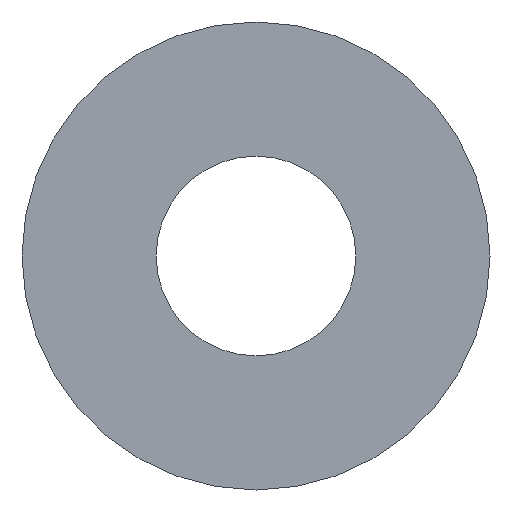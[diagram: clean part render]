
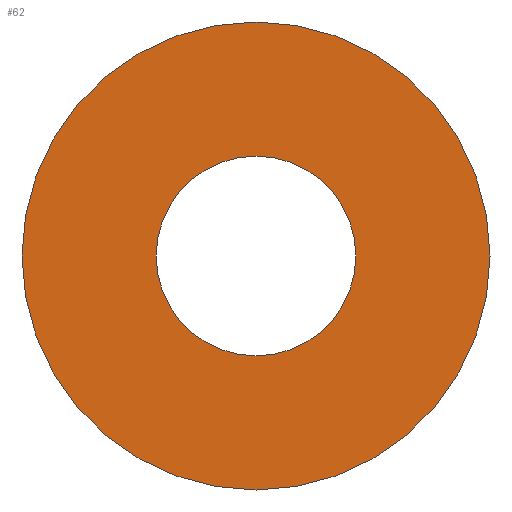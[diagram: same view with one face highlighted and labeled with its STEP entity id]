
A CAD part, front view. The second image highlights one B-rep face of the part: STEP entity #62.
In plain terms, the highlighted planar face has unit normal (0, -1, 0).
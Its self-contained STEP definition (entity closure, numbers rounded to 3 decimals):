
#20=PLANE('',#83);
#26=ORIENTED_EDGE('',*,*,#30,.T.);
#27=ORIENTED_EDGE('',*,*,#32,.F.);
#30=EDGE_CURVE('',#34,#34,#38,.T.);
#32=EDGE_CURVE('',#36,#36,#40,.T.);
#34=VERTEX_POINT('',#106);
#36=VERTEX_POINT('',#111);
#38=CIRCLE('',#78,17.5);
#40=CIRCLE('',#81,41.);
#46=EDGE_LOOP('',(#26));
#47=EDGE_LOOP('',(#27));
#54=FACE_BOUND('',#46,.T.);
#55=FACE_BOUND('',#47,.T.);
#62=ADVANCED_FACE('',(#54,#55),#20,.F.);
#78=AXIS2_PLACEMENT_3D('',#105,#89,#90);
#81=AXIS2_PLACEMENT_3D('',#110,#95,#96);
#83=AXIS2_PLACEMENT_3D('',#114,#99,#100);
#89=DIRECTION('',(0.,1.,0.));
#90=DIRECTION('',(1.,0.,0.));
#95=DIRECTION('',(0.,1.,0.));
#96=DIRECTION('',(1.,0.,0.));
#99=DIRECTION('',(0.,1.,0.));
#100=DIRECTION('',(0.,0.,1.));
#105=CARTESIAN_POINT('',(0.,-1.5,0.));
#106=CARTESIAN_POINT('',(17.5,-1.5,0.));
#110=CARTESIAN_POINT('',(0.,-1.5,0.));
#111=CARTESIAN_POINT('',(41.,-1.5,0.));
#114=CARTESIAN_POINT('',(0.,-1.5,0.));
